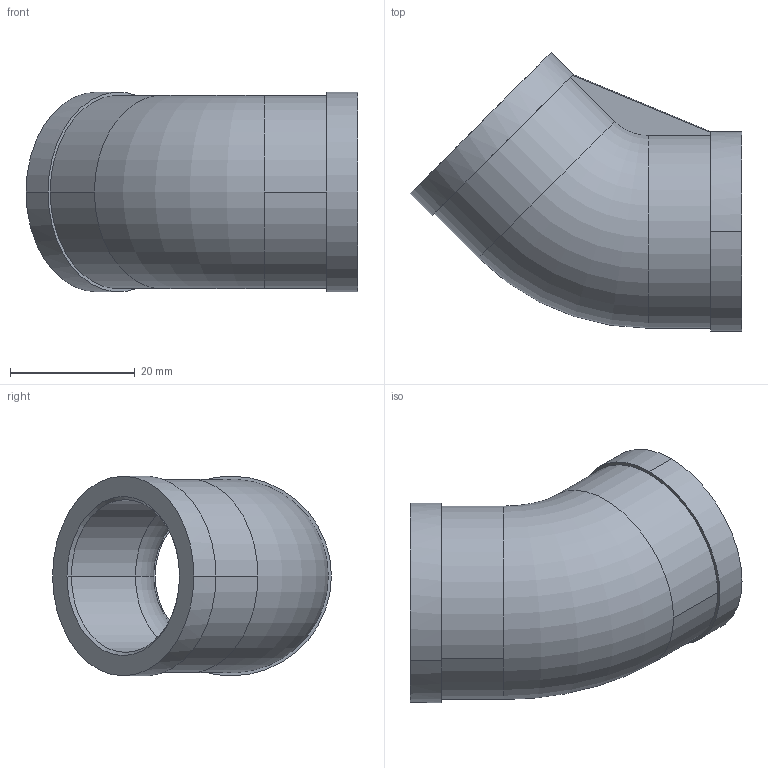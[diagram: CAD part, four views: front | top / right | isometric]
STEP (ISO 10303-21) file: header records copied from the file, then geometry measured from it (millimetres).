
FILE_DESCRIPTION (( 'STEP AP203' ), '1' );
FILE_NAME ('Wiberger-wn8626-a4-3-4tum.step', '2025-03-11T09:14:34', ( '' ), ( '' ), 'SwSTEP 2.0', 'SolidWorks 2023', '' );
FILE_SCHEMA (( 'CONFIG_CONTROL_DESIGN' ));
Length unit declared in the file: millimetre
Products named in the file (1): Wiberger-wn8626-a4-3-4tum
Bounding box: 53.18 x 44.66 x 32 mm (x, y, z)
Volume: 14025.6 mm3; surface area: 9329.3 mm2
Topology: 1 solids, 1 shells, 28 faces, 64 edges, 40 vertices
Faces by surface type: cylinder 12, plane 8, cone 4, torus 3, bspline 1
Entity records: 888 total; most frequent: DIRECTION 160, CARTESIAN_POINT 140, ORIENTED_EDGE 128, AXIS2_PLACEMENT_3D 68, EDGE_CURVE 64, CIRCLE 40, VERTEX_POINT 40, EDGE_LOOP 32
